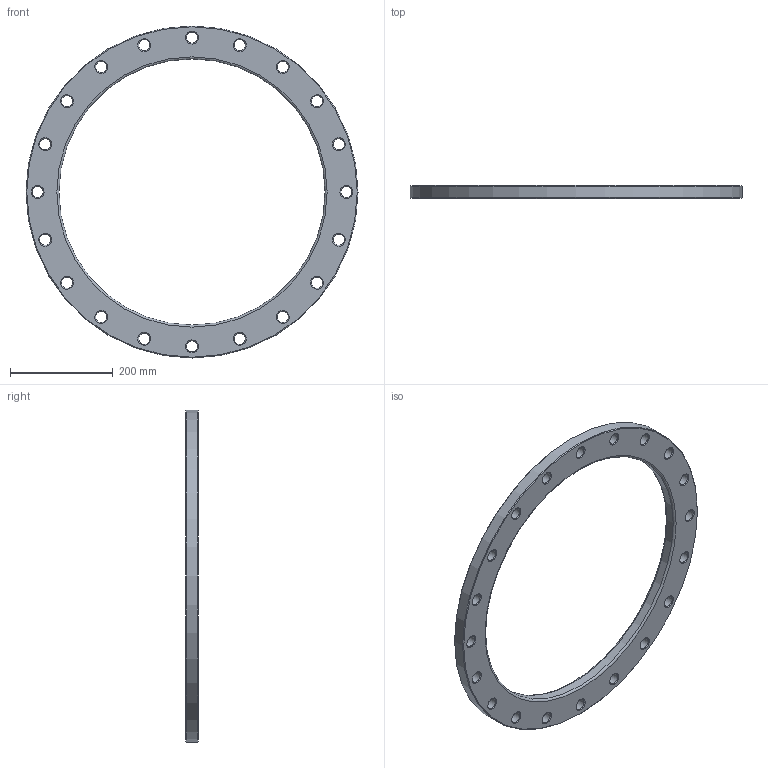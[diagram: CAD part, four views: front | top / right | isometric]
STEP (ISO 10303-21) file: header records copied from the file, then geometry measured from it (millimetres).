
FILE_DESCRIPTION(/* description */ ('Unknown'),/* implementation_level */ '2;1');
FILE_NAME(/* name */ 'FZ450A',/* time_stamp */ '2021-03-13T11:55:14+01:00',/* author */ ('Unknown'),/* organization */ ('Unknown'),/* preprocessor_version */ 'ST-DEVELOPER v16.7',/* originating_system */ 'Solid Edge',/* authorisation */ 'Unknown');
FILE_SCHEMA (('AUTOMOTIVE_DESIGN {1 0 10303 214 3 1 1}'));
Length unit declared in the file: millimetre
Products named in the file (1): FZ450A
Bounding box: 645 x 25 x 645 mm (x, y, z)
Volume: 2711362.1 mm3; surface area: 332807.8 mm2
Topology: 1 solids, 1 shells, 68 faces, 214 edges, 148 vertices
Faces by surface type: cone 42, cylinder 22, plane 2, torus 2
Full cylindrical faces by diameter (mm): 22 x20, 517 x1, 645 x1
Entity records: 1678 total; most frequent: DIRECTION 314, CARTESIAN_POINT 245, ORIENTED_EDGE 176, EDGE_LOOP 176, FACE_BOUND 176, AXIS2_PLACEMENT_3D 157, EDGE_CURVE 88, VERTEX_POINT 88
